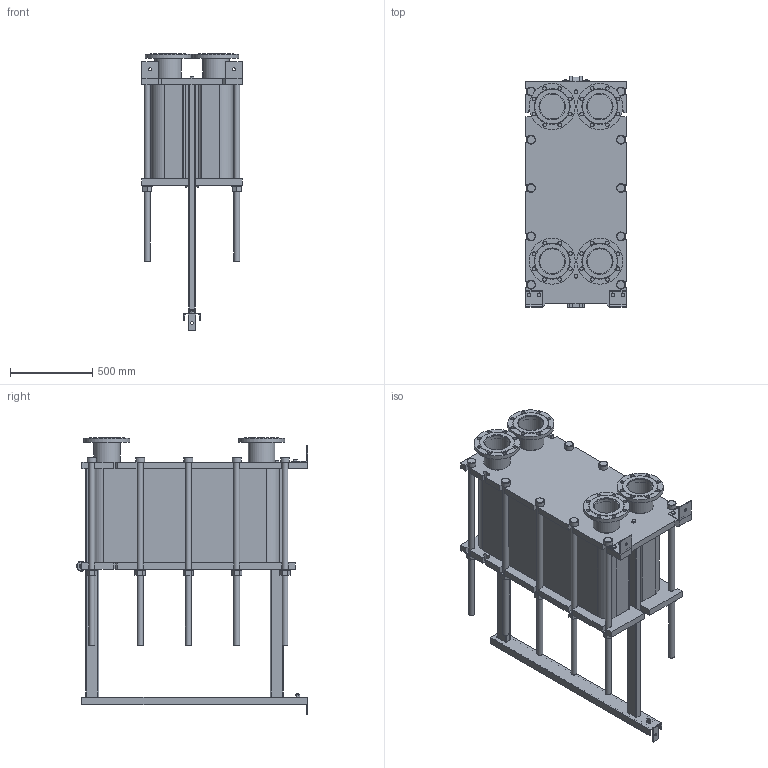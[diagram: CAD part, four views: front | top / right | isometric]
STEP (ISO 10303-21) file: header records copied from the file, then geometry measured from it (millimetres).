
FILE_DESCRIPTION(/* description */ (''),/* implementation_level */ '2;1');
FILE_NAME(/* name */ 'C:\Users\zhuro\Desktop\ENCO\TO\ЭН-041\ЭН-0,5-041-166-1.stp',/* time_stamp */ '2022-06-06T11:04:20+03:00',/* author */ ('zhuro'),/* organization */ (''),/* preprocessor_version */ 'ST-DEVELOPER v18.1',/* originating_system */ 'Autodesk Inventor 2022',/* authorisation */ '');
FILE_SCHEMA (('AUTOMOTIVE_DESIGN { 1 0 10303 214 3 1 1 }'));
Length unit declared in the file: millimetre
Products named in the file (1): ЭН-0,5-041-166-1
Bounding box: 610 x 1406.5 x 1685 mm (x, y, z)
Volume: 407218970.3 mm3; surface area: 10479757 mm2
Topology: 52 solids, 52 shells, 711 faces, 1696 edges, 1094 vertices
Faces by surface type: plane 487, cylinder 177, cone 41, torus 6
Full cylindrical faces by diameter (mm): 8 x4, 10 x2, 16 x8, 18 x3, 22 x32, 36 x24, 50 x1, 54 x10, 60 x12, 151 x4, 161 x8, 280 x4
Entity records: 22667 total; most frequent: CARTESIAN_POINT 5230, DIRECTION 3644, ORIENTED_EDGE 3392, EDGE_CURVE 1696, AXIS2_PLACEMENT_3D 1272, LINE 1100, VECTOR 1100, VERTEX_POINT 1094
